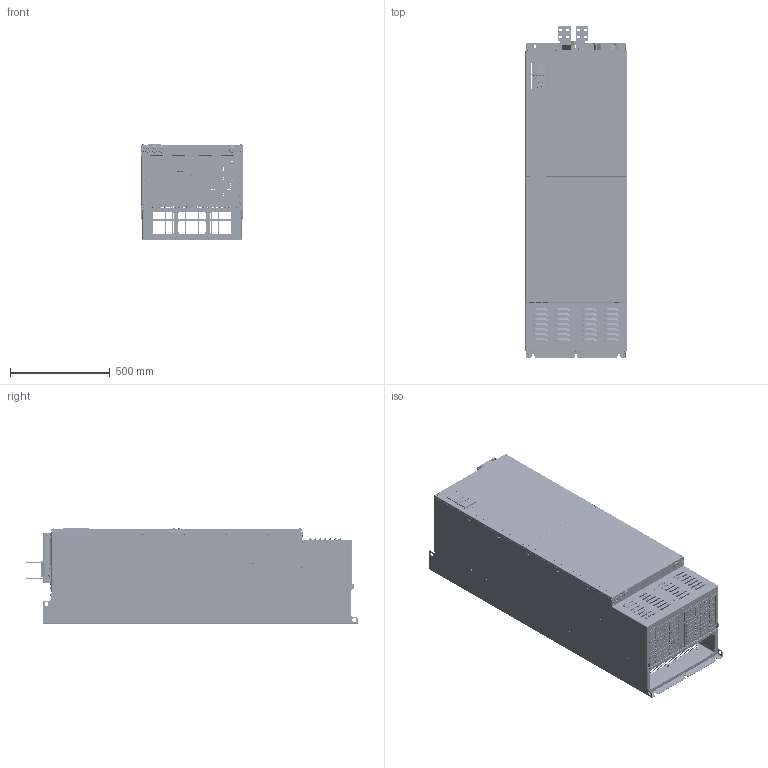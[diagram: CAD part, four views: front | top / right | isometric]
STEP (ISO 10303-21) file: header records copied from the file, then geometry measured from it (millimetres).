
FILE_DESCRIPTION((''),'2;1');
FILE_NAME('SHELL_E3H_TOP_OPTION_ASM','2017-01-19T',('usdd0647'),('Danfoss Power Electronics'),'CREO PARAMETRIC BY PTC INC, 2015480','CREO PARAMETRIC BY PTC INC, 2015480','');
FILE_SCHEMA(('CONFIG_CONTROL_DESIGN','GEOMETRIC_VALIDATION_PROPERTIES_MIM'));
Products named in the file (136): 177G8945; FH-M6-15-ZI; SS-M5-2-ZI; S-M6-2-ZI; FH-M5-12-ZI; TPS-5MM-12; 177G8945_ASM; 177G9017; 177G9017_ASM; 177G8997; 177G8997_ASM; 26513; 177G9156; FH-M5-18-ZI; 177G9156_ASM; 177G4513; 175A5393; 26514; P4001_E1E3_ENCL_BACKCHANNEL_ASM; 177G8961; FH-M8-20-ZI; HFH-M10-25-ZI; 177G8961_ASM; 177G8968_AF0; 177G8968_AF3_ASM; 177G8967_AF0; 177G8967_AF3_ASM; 177G8975_AF4; 177G8975_AF2_ASM; 681X9143; 177G9001_AF6; 177G9001_AF3_ASM; 177G8993; SP-M5-2; 177G8993_ASM; 177G9204; 177G9204_ASM; 177G9235; 177G9235_ASM; 26516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
Assembly tree (485 placements, depth 6):
  SHELL_E3H_TOP_OPTION_ASM
    P4001_E1E3_ASM
      P4001_E1E3_ENCL_BACKCHANNEL_ASM
        177G8945_ASM
          177G8945
          FH-M6-15-ZI  x4
          SS-M5-2-ZI  x28
          S-M6-2-ZI  x12
          FH-M5-12-ZI  x19
          TPS-5MM-12  x6
        177G9017_ASM  x2
          177G9017
        177G8997_ASM  x2
          177G8997
          SS-M5-2-ZI
        26513  x19
        177G9156_ASM
          177G9156
          FH-M5-18-ZI  x4
        177G4513  x4
        175A5393
        26514  x4
      P4001_E1E3_ENCL_MIDPLATE_ASM
        177G8961_ASM
          177G8961
          FH-M8-20-ZI  x16
          FH-M5-12-ZI  x20
          HFH-M10-25-ZI  x4
        177G8968_AF3_ASM
          177G8968_AF0
        177G8967_AF3_ASM
          177G8967_AF0
        177G8975_AF2_ASM
          177G8975_AF4
        681X9143  x17
        177G9001_AF3_ASM
          177G9001_AF6
        177G8993_ASM
          177G8993
          SP-M5-2  x2
        26513  x6
        177G9204_ASM
          177G9204
          FH-M5-12-ZI
          SS-M5-2-ZI  x3
        177G9235_ASM
          177G9235
        26516  x4
        26515  x4
        177A0167_ASM
          177A0167
        177A0168_ASM
          177A0168
      177G8971_ASM
        177G8971
        TPS-5MM-16
      26463  x2
      177G8972_ASM
        177G8972
        TPS-5MM-16
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Bounding box: 507.8 x 1661.78 x 483.14 mm (x, y, z)
Volume: 9881375.4 mm3; surface area: 10406225.3 mm2
Topology: 449 solids, 567 shells, 20562 faces, 54333 edges, 35397 vertices
Faces by surface type: plane 11904, cylinder 6438, cone 844, bspline 610, torus 532, revolution 152, sphere 60, extrusion 22
Entity records: 551888 total; most frequent: CARTESIAN_POINT 107739, DIRECTION 70800, ORIENTED_EDGE 70746, EDGE_CURVE 35856, PRESENTATION_STYLE_ASSIGNMENT 24615, VECTOR 23938, LINE 23916, AXIS2_PLACEMENT_3D 23429
